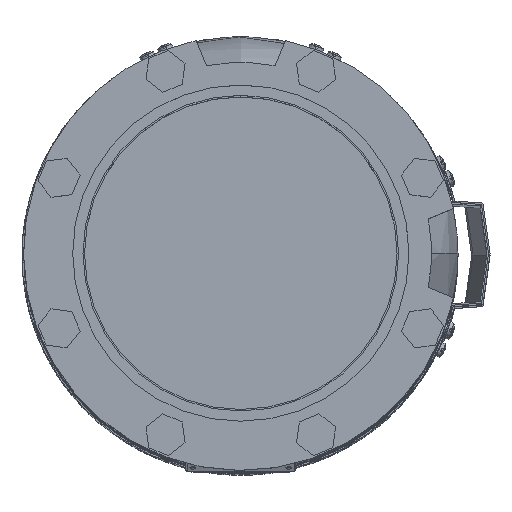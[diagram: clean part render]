
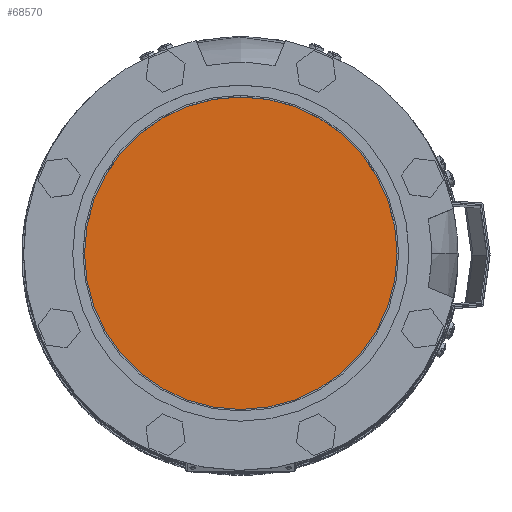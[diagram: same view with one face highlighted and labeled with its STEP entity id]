
A CAD part, top view. The second image highlights one B-rep face of the part: STEP entity #68570.
In plain terms, the highlighted planar face has unit normal (0, 0, 1) as drawn and (0, 1, 0) by its records, which use the part's own axes.
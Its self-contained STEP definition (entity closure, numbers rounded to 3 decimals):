
#637=CIRCLE('',#72264,102.5);
#638=CIRCLE('',#72265,102.5);
#16706=ORIENTED_EDGE('',*,*,#37498,.F.);
#16707=ORIENTED_EDGE('',*,*,#37499,.T.);
#37498=EDGE_CURVE('',#47894,#47895,#637,.T.);
#37499=EDGE_CURVE('',#47894,#47895,#638,.T.);
#47894=VERTEX_POINT('',#98954);
#47895=VERTEX_POINT('',#98955);
#55598=EDGE_LOOP('',(#16706,#16707));
#60549=FACE_BOUND('',#55598,.T.);
#65499=PLANE('',#72263);
#68570=ADVANCED_FACE('',(#60549),#65499,.T.);
#72263=AXIS2_PLACEMENT_3D('',#98952,#78994,#78995);
#72264=AXIS2_PLACEMENT_3D('',#98953,#78996,#78997);
#72265=AXIS2_PLACEMENT_3D('',#98956,#78998,#78999);
#78994=DIRECTION('',(0.,1.,0.));
#78995=DIRECTION('',(-1.,0.,0.));
#78996=DIRECTION('',(0.,-1.,0.));
#78997=DIRECTION('',(-1.,0.,0.));
#78998=DIRECTION('',(0.,1.,0.));
#78999=DIRECTION('',(-1.,0.,0.));
#98952=CARTESIAN_POINT('',(-109.56,216.5,0.));
#98953=CARTESIAN_POINT('',(0.,216.5,0.));
#98954=CARTESIAN_POINT('',(-102.5,216.5,0.));
#98955=CARTESIAN_POINT('',(102.5,216.5,0.));
#98956=CARTESIAN_POINT('',(0.,216.5,0.));
